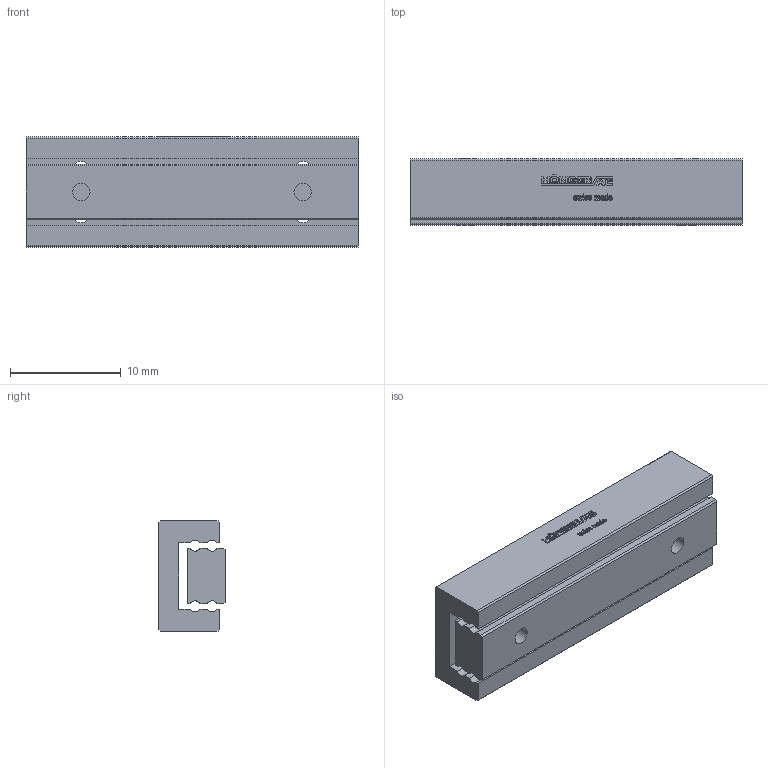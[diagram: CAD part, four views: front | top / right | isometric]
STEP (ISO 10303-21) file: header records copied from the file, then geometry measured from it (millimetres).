
FILE_DESCRIPTION(/* description */ ('STEP AP214'),/* implementation_level */ '2;1');
FILE_NAME(/* name */ 'MSK 5-30.25(0)',/* time_stamp */ '2025-04-16T16:49:04+02:00',/* author */ ('License CC BY-ND 4.0'),/* organization */ ('CADENAS'),/* preprocessor_version */ 'ST-DEVELOPER v19.3',/* originating_system */ 'PARTsolutions',/* authorisation */ ' ');
FILE_SCHEMA (('AUTOMOTIVE_DESIGN {1 0 10303 214 3 1 1}'));
Length unit declared in the file: millimetre
Products named in the file (3): MSK 5-30.25(0); MSK 5-30.25_1; MSK 5-30.25_2
Assembly tree (2 placements, depth 2):
  MSK 5-30.25(0)
    MSK 5-30.25_1
    MSK 5-30.25_2
Bounding box: 30 x 6 x 10 mm (x, y, z)
Volume: 1426.9 mm3; surface area: 1837.1 mm2
Topology: 2 solids, 2 shells, 513 faces, 1442 edges, 960 vertices
Faces by surface type: cylinder 306, plane 203, cone 4
Full cylindrical faces by diameter (mm): 1.567 x6
Entity records: 16849 total; most frequent: DIRECTION 3080, CARTESIAN_POINT 2908, ORIENTED_EDGE 2864, EDGE_CURVE 1432, AXIS2_PLACEMENT_3D 1132, VERTEX_POINT 960, LINE 816, VECTOR 816
